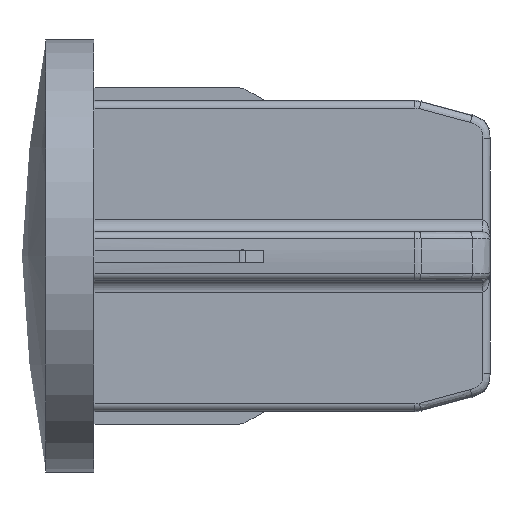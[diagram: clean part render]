
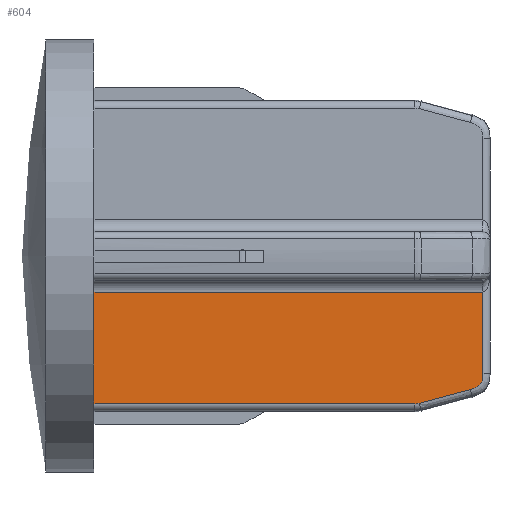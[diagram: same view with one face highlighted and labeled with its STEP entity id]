
A CAD part, left-side view. The second image highlights one B-rep face of the part: STEP entity #604.
In plain terms, the highlighted planar face has unit normal (-1, 0, 0).
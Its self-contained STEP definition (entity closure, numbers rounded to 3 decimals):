
#431=CARTESIAN_POINT('',(-1.,0.0,-1.5));
#432=VERTEX_POINT('',#431);
#442=CARTESIAN_POINT('',(-1.,-16.2,-1.5));
#443=VERTEX_POINT('',#442);
#444=CARTESIAN_POINT('',(-1.,0.0,-1.5));
#445=DIRECTION('',(0.0,-1.0,0.0));
#446=VECTOR('',#445,16.2);
#447=LINE('',#444,#446);
#448=EDGE_CURVE('',#432,#443,#447,.T.);
#520=CARTESIAN_POINT('',(-1.,-16.2,-4.879));
#521=VERTEX_POINT('',#520);
#522=CARTESIAN_POINT('',(-1.,-16.2,-1.5));
#523=DIRECTION('',(0.0,0.0,-1.0));
#524=VECTOR('',#523,3.379);
#525=LINE('',#522,#524);
#526=EDGE_CURVE('',#443,#521,#525,.T.);
#546=CARTESIAN_POINT('',(-1.,0.0,-6.423));
#547=DIRECTION('',(-1.0,0.0,0.0));
#548=DIRECTION('',(0.0,0.0,1.0));
#549=AXIS2_PLACEMENT_3D('',#546,#547,#548);
#550=PLANE('',#549);
#551=ORIENTED_EDGE('',*,*,#448,.F.);
#552=CARTESIAN_POINT('',(-1.,0.0,-6.16));
#553=VERTEX_POINT('',#552);
#554=CARTESIAN_POINT('',(-1.,0.0,-6.16));
#555=DIRECTION('',(0.0,0.0,1.0));
#556=VECTOR('',#555,4.66);
#557=LINE('',#554,#556);
#558=EDGE_CURVE('',#553,#432,#557,.T.);
#559=ORIENTED_EDGE('',*,*,#558,.F.);
#560=CARTESIAN_POINT('',(-1.,-13.368,-6.16));
#561=VERTEX_POINT('',#560);
#562=CARTESIAN_POINT('',(-1.,-13.368,-6.16));
#563=DIRECTION('',(0.0,1.0,0.0));
#564=VECTOR('',#563,13.368);
#565=LINE('',#562,#564);
#566=EDGE_CURVE('',#561,#553,#565,.T.);
#567=ORIENTED_EDGE('',*,*,#566,.F.);
#568=CARTESIAN_POINT('',(-1.,-13.55,-6.136));
#569=VERTEX_POINT('',#568);
#570=CARTESIAN_POINT('',(-1.,-13.55,-6.136));
#571=CARTESIAN_POINT('',(-1.,-13.52,-6.144));
#572=CARTESIAN_POINT('',(-1.,-13.461,-6.161));
#573=CARTESIAN_POINT('',(-1.,-13.399,-6.16));
#574=CARTESIAN_POINT('',(-1.,-13.368,-6.16));
#575=B_SPLINE_CURVE_WITH_KNOTS('',3,(#570,#571,#572,#573,#574),.UNSPECIFIED.,.F.,.U.,(4,1,4),(0.0,0.009,0.018),.UNSPECIFIED.);
#576=EDGE_CURVE('',#569,#561,#575,.T.);
#577=ORIENTED_EDGE('',*,*,#576,.F.);
#578=CARTESIAN_POINT('',(-1.,-15.681,-5.561));
#579=VERTEX_POINT('',#578);
#580=CARTESIAN_POINT('',(-1.,-15.681,-5.561));
#581=CARTESIAN_POINT('',(-1.,-14.971,-5.753));
#582=CARTESIAN_POINT('',(-1.,-14.26,-5.945));
#583=CARTESIAN_POINT('',(-1.,-13.55,-6.136));
#584=B_SPLINE_CURVE_WITH_KNOTS('',3,(#580,#581,#582,#583),.UNSPECIFIED.,.F.,.U.,(4,4),(0.0,0.221),.UNSPECIFIED.);
#585=EDGE_CURVE('',#579,#569,#584,.T.);
#586=ORIENTED_EDGE('',*,*,#585,.F.);
#587=CARTESIAN_POINT('',(-1.,-16.2,-4.879));
#588=CARTESIAN_POINT('',(-1.,-16.2,-4.924));
#589=CARTESIAN_POINT('',(-1.,-16.2,-4.992));
#590=CARTESIAN_POINT('',(-1.,-16.191,-5.094));
#591=CARTESIAN_POINT('',(-1.,-16.171,-5.183));
#592=CARTESIAN_POINT('',(-1.,-16.124,-5.287));
#593=CARTESIAN_POINT('',(-1.,-16.048,-5.388));
#594=CARTESIAN_POINT('',(-1.,-15.939,-5.473));
#595=CARTESIAN_POINT('',(-1.,-15.814,-5.526));
#596=CARTESIAN_POINT('',(-1.,-15.725,-5.549));
#597=CARTESIAN_POINT('',(-1.,-15.681,-5.561));
#598=B_SPLINE_CURVE_WITH_KNOTS('',3,(#587,#588,#589,#590,#591,#592,#593,#594,#595,#596,#597),.UNSPECIFIED.,.F.,.U.,(4,1,1,1,1,1,1,1,4),(0.0,0.014,0.02,0.031,0.041,0.054,0.068,0.081,0.095),.UNSPECIFIED.);
#599=EDGE_CURVE('',#521,#579,#598,.T.);
#600=ORIENTED_EDGE('',*,*,#599,.F.);
#601=ORIENTED_EDGE('',*,*,#526,.F.);
#602=EDGE_LOOP('',(#551,#559,#567,#577,#586,#600,#601));
#603=FACE_OUTER_BOUND('',#602,.T.);
#604=ADVANCED_FACE('',(#603),#550,.T.);
